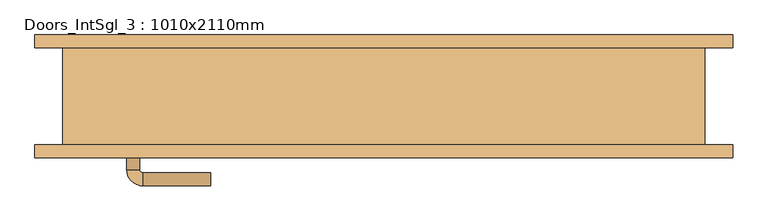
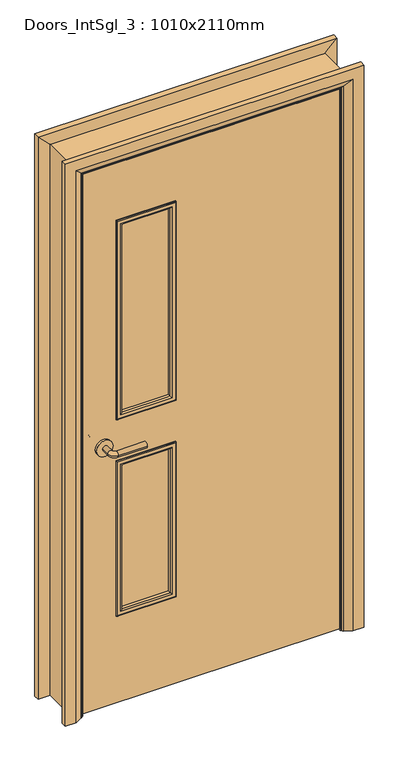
"""IFC4 building model written with IfcOpenShell, lengths in millimetres: door geometry, Doors_IntSgl_3 : 1010x2110mm."""

from ifc_helpers import new_model, si_unit, point, frame, frame_2d, origin, place, context, project, spatial, polyline, circle_curve, ellipse_curve, trimmed, segment, composite_curve, outline, extrude, faceted_brep, source, transform, mapped, element, save
from ifc_brep_helpers import plane_surface, cylinder_surface, revolved_surface, advanced_brep


def doors_intsgl_3_1010x2110mm_0dcaffd3(model_context):
    return source(origin(), model_context, "Body", "SolidModel", [
        advanced_brep(
        [(-398.0, -29.0, 1000.0), (-378.0, -29.0, 1000.0), (-398.0, 1.0, 1000.0), (-378.0, 1.0, 1000.0), (-373.0, 6.0, 1000.0), (-373.0, 26.0, 1000.0), (-268.0, 26.0, 1000.0), (-268.0, 6.0, 1000.0)],
        [
            (0, 1, circle_curve(frame((-388.0, -29.0, 1000.0), z_axis=(0.0, -1.0, 0.0), x_axis=(1.0, 0.0, 0.0)), 10.0)),
            (1, 0, circle_curve(frame((-388.0, -29.0, 1000.0), z_axis=(0.0, -1.0, 0.0), x_axis=(1.0, 0.0, 0.0)), 10.0)),
            (0, 2),
            (2, 3, circle_curve(frame((-388.0, 1.0, 1000.0), z_axis=(0.0, -1.0, 0.0), x_axis=(1.0, 0.0, 0.0)), 10.0)),
            (3, 1),
            (3, 2, circle_curve(frame((-388.0, 1.0, 1000.0), z_axis=(0.0, -1.0, 0.0), x_axis=(1.0, 0.0, 0.0)), 10.0)),
            (4, 3, circle_curve(frame((-373.0, 1.0, 1000.0), z_axis=(0.0, 0.0, 1.0), x_axis=(-1.0, 0.0, 0.0)), 5.0)),
            (2, 5, circle_curve(frame((-373.0, 1.0, 1000.0), z_axis=(0.0, 0.0, -1.0), x_axis=(-1.0, 0.0, 0.0)), 25.0)),
            (5, 4, circle_curve(frame((-373.0, 16.0, 1000.0), z_axis=(-1.0, 0.0, 0.0), x_axis=(0.0, -1.0, 0.0)), 10.0)),
            (4, 5, circle_curve(frame((-373.0, 16.0, 1000.0), z_axis=(-1.0, 0.0, 0.0), x_axis=(0.0, -1.0, 0.0)), 10.0)),
            (6, 7, circle_curve(frame((-268.0, 16.0, 1000.0), z_axis=(1.0, 0.0, 0.0), x_axis=(0.0, -1.0, 0.0)), 10.0)),
            (7, 6, circle_curve(frame((-268.0, 16.0, 1000.0), z_axis=(1.0, 0.0, 0.0), x_axis=(0.0, -1.0, 0.0)), 10.0)),
            (5, 6),
            (7, 4),
        ],
        [
            plane_surface(frame((-388.0, -29.0, 1000.0), z_axis=(0.0, -1.0, 0.0), x_axis=(0.0, 0.0, 1.0))),
            cylinder_surface(frame((-388.0, -29.0, 1000.0), z_axis=(0.0, -1.0, 0.0), x_axis=(1.0, 0.0, 0.0)), 10.0),
            revolved_surface(trimmed(ellipse_curve(frame((-388.0, 1.0, 1000.0), z_axis=(0.0, -1.0, 0.0), x_axis=(1.0, 0.0, 0.0)), 10.0, 10.0), [point((-398.0, 1.0, 1000.0))], [point((-378.0, 1.0, 1000.0))], True, "CARTESIAN"), (-373.0, 1.0, 1000.0), (0.0, 0.0, -1.0)),
            revolved_surface(trimmed(ellipse_curve(frame((-388.0, 1.0, 1000.0), z_axis=(0.0, -1.0, 0.0), x_axis=(1.0, 0.0, 0.0)), 10.0, 10.0), [point((-378.0, 1.0, 1000.0))], [point((-398.0, 1.0, 1000.0))], True, "CARTESIAN"), (-373.0, 1.0, 1000.0), (0.0, 0.0, -1.0)),
            plane_surface(frame((-268.0, 16.0, 1000.0), z_axis=(1.0, 0.0, 0.0), x_axis=(0.0, 0.0, 1.0))),
            cylinder_surface(frame((-373.0, 16.0, 1000.0), z_axis=(-1.0, 0.0, 0.0), x_axis=(0.0, -1.0, 0.0)), 10.0),
        ],
        [
            (0, [[1, 2]]),
            (1, [[-1, 3, 4, 5]]),
            (1, [[-2, -5, 6, -3]]),
            (2, [[7, -4, 8, 9]]),
            (3, [[-8, -6, -7, 10]]),
            (4, [[11, 12]]),
            (5, [[-9, 13, -12, 14]]),
            (5, [[-10, -14, -11, -13]]),
        ],
    ),
        extrude(outline(composite_curve([segment(trimmed(circle_curve(frame_2d((1000.0, -390.5)), 30.0), [point((1000.0, -420.5))], [point((1000.0, -360.5))], False, "CARTESIAN"), True, "CONTINUOUS"), segment(trimmed(circle_curve(frame_2d((1000.0, -390.5)), 30.0), [point((1000.0, -360.5))], [point((1000.0, -420.5))], False, "CARTESIAN"), True, "CONTINUOUS")], self_intersect=False)), frame((0.0, -37.0, 0.0), z_axis=(0.0, 1.0, 0.0), x_axis=(0.0, 0.0, 1.0)), (0.0, 0.0, 1.0), 8.0),
        advanced_brep(
        [(-398.0, -83.0, 1000.0), (-378.0, -83.0, 1000.0), (-378.0, -113.0, 1000.0), (-398.0, -113.0, 1000.0), (-373.0, -118.0, 1000.0), (-373.0, -138.0, 1000.0), (-268.0, -138.0, 1000.0), (-268.0, -118.0, 1000.0)],
        [
            (0, 1, circle_curve(frame((-388.0, -83.0, 1000.0), z_axis=(0.0, 1.0, 0.0), x_axis=(1.0, 0.0, 0.0)), 10.0)),
            (1, 0, circle_curve(frame((-388.0, -83.0, 1000.0), z_axis=(0.0, 1.0, 0.0), x_axis=(1.0, 0.0, 0.0)), 10.0)),
            (1, 2),
            (2, 3, circle_curve(frame((-388.0, -113.0, 1000.0), z_axis=(0.0, 1.0, 0.0), x_axis=(1.0, 0.0, 0.0)), 10.0)),
            (3, 0),
            (3, 2, circle_curve(frame((-388.0, -113.0, 1000.0), z_axis=(0.0, 1.0, 0.0), x_axis=(1.0, 0.0, 0.0)), 10.0)),
            (4, 5, circle_curve(frame((-373.0, -128.0, 1000.0), z_axis=(-1.0, 0.0, 0.0), x_axis=(0.0, 1.0, 0.0)), 10.0)),
            (5, 3, circle_curve(frame((-373.0, -113.0, 1000.0), z_axis=(0.0, 0.0, -1.0), x_axis=(-1.0, 0.0, 0.0)), 25.0)),
            (2, 4, circle_curve(frame((-373.0, -113.0, 1000.0), z_axis=(0.0, 0.0, 1.0), x_axis=(-1.0, 0.0, 0.0)), 5.0)),
            (5, 4, circle_curve(frame((-373.0, -128.0, 1000.0), z_axis=(-1.0, 0.0, 0.0), x_axis=(0.0, 1.0, 0.0)), 10.0)),
            (6, 7, circle_curve(frame((-268.0, -128.0, 1000.0), z_axis=(1.0, 0.0, 0.0), x_axis=(0.0, 1.0, 0.0)), 10.0)),
            (7, 6, circle_curve(frame((-268.0, -128.0, 1000.0), z_axis=(1.0, 0.0, 0.0), x_axis=(0.0, 1.0, 0.0)), 10.0)),
            (4, 7),
            (6, 5),
        ],
        [
            plane_surface(frame((-388.0, -83.0, 1000.0), z_axis=(0.0, 1.0, 0.0), x_axis=(0.0, 0.0, 1.0))),
            cylinder_surface(frame((-388.0, -83.0, 1000.0), z_axis=(0.0, 1.0, 0.0), x_axis=(1.0, 0.0, 0.0)), 10.0),
            revolved_surface(trimmed(ellipse_curve(frame((-388.0, -113.0, 1000.0), z_axis=(0.0, -1.0, 0.0), x_axis=(1.0, 0.0, 0.0)), 10.0, 10.0), [point((-398.0, -113.0, 1000.0))], [point((-378.0, -113.0, 1000.0))], True, "CARTESIAN"), (-373.0, -113.0, 1000.0), (0.0, 0.0, -1.0)),
            revolved_surface(trimmed(ellipse_curve(frame((-388.0, -113.0, 1000.0), z_axis=(0.0, -1.0, 0.0), x_axis=(1.0, 0.0, 0.0)), 10.0, 10.0), [point((-378.0, -113.0, 1000.0))], [point((-398.0, -113.0, 1000.0))], True, "CARTESIAN"), (-373.0, -113.0, 1000.0), (0.0, 0.0, -1.0)),
            plane_surface(frame((-268.0, -128.0, 1000.0), z_axis=(1.0, 0.0, 0.0), x_axis=(0.0, 0.0, 1.0))),
            cylinder_surface(frame((-373.0, -128.0, 1000.0), z_axis=(-1.0, 0.0, 0.0), x_axis=(0.0, 1.0, 0.0)), 10.0),
        ],
        [
            (0, [[1, 2]]),
            (1, [[3, 4, 5, -2]]),
            (1, [[-5, 6, -3, -1]]),
            (2, [[7, 8, -4, 9]]),
            (3, [[10, -9, -6, -8]]),
            (4, [[11, 12]]),
            (5, [[13, -11, 14, -7]]),
            (5, [[-14, -12, -13, -10]]),
        ],
    ),
        extrude(outline(composite_curve([segment(trimmed(circle_curve(frame_2d((1000.0, -390.5)), 30.0), [point((1000.0, -420.5))], [point((1000.0, -360.5))], False, "CARTESIAN"), True, "CONTINUOUS"), segment(trimmed(circle_curve(frame_2d((1000.0, -390.5)), 30.0), [point((1000.0, -360.5))], [point((1000.0, -420.5))], False, "CARTESIAN"), True, "CONTINUOUS")], self_intersect=False)), frame((0.0, -83.0, 0.0), z_axis=(0.0, 1.0, 0.0), x_axis=(0.0, 0.0, 1.0)), (0.0, 0.0, 1.0), 8.0),
        extrude(outline(polyline([(2068.0, -463.0), (8.0, -463.0), (8.0, 463.0), (2068.0, 463.0), (2068.0, -463.0)]), holes=[polyline([(1843.0, -138.0), (1100.0, -138.0), (1100.0, -338.0), (1843.0, -338.0), (1843.0, -138.0)]), polyline([(925.0, -338.0), (925.0, -138.0), (350.0, -138.0), (350.0, -338.0), (925.0, -338.0)])]), frame((0.0, -75.0, 0.0), z_axis=(0.0, 1.0, 0.0), x_axis=(0.0, 0.0, 1.0)), (0.0, 0.0, 1.0), 38.0),
        advanced_brep(
        [(540.0, -95.0, 0.0), (500.0, -95.0, 0.0), (474.0, -81.0, 0.0), (470.0, -75.0, 0.0), (540.0, -75.0, 0.0), (540.0, -75.0, 2145.0), (540.0, -95.0, 2145.0), (470.0, -75.0, 2075.0), (-470.0, -75.0, 2075.0), (-470.0, -75.0, 0.0), (-540.0, -75.0, 0.0), (-540.0, -75.0, 2145.0), (474.0, -81.0, 2079.0), (500.0, -95.0, 2105.0), (-540.0, -95.0, 2145.0), (-540.0, -95.0, 0.0), (-500.0, -95.0, 0.0), (-500.0, -95.0, 2105.0), (-474.0, -81.0, 0.0), (-474.0, -81.0, 2079.0)],
        [
            (0, 1),
            (1, 2),
            (2, 3, circle_curve(frame((478.0, -74.0, 0.0), z_axis=(0.0, 0.0, -1.0), x_axis=(1.0, 0.0, 0.0)), 8.0622577)),
            (3, 4),
            (4, 0),
            (4, 5),
            (5, 6),
            (6, 0),
            (3, 7),
            (7, 8),
            (8, 9),
            (9, 10),
            (10, 11),
            (11, 5),
            (2, 12),
            (12, 7, ellipse_curve(frame((478.0, -74.0, 2083.0), z_axis=(0.7071067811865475, 0.0, -0.7071067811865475), x_axis=(-0.7071067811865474, 0.0, -0.7071067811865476)), 11.4017543, 8.0622577)),
            (1, 13),
            (13, 12),
            (6, 14),
            (14, 15),
            (15, 16),
            (16, 17),
            (17, 13),
            (10, 15),
            (14, 11),
            (9, 18, circle_curve(frame((-478.0, -74.0, 0.0), z_axis=(0.0, 0.0, -1.0), x_axis=(-1.0, 0.0, 0.0)), 8.0622577)),
            (18, 16),
            (19, 18),
            (8, 19, ellipse_curve(frame((-478.0, -74.0, 2083.0), z_axis=(-0.7071067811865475, 0.0, -0.7071067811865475), x_axis=(-0.7071067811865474, 0.0, 0.7071067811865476)), 11.4017543, 8.0622577)),
            (19, 17),
            (12, 19),
        ],
        [
            plane_surface(frame((470.0, -75.0, 0.0), z_axis=(0.0, 0.0, -1.0), x_axis=(0.0, 1.0, 0.0))),
            plane_surface(frame((540.0, -95.0, 0.0), z_axis=(1.0, 0.0, 0.0), x_axis=(0.0, 0.0, 1.0))),
            plane_surface(frame((540.0, -75.0, 0.0), z_axis=(0.0, 1.0, 0.0), x_axis=(0.0, 0.0, 1.0))),
            cylinder_surface(frame((478.0, -74.0, 0.0), z_axis=(0.0, 0.0, -1.0), x_axis=(1.0, 0.0, 0.0)), 8.0622577),
            plane_surface(frame((474.0, -81.0, 0.0), z_axis=(-0.4740998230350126, -0.8804710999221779, 0.0), x_axis=(0.0, 0.0, 1.0))),
            plane_surface(frame((500.0, -95.0, 0.0), z_axis=(0.0, -1.0, 0.0), x_axis=(0.0, 0.0, 1.0))),
            plane_surface(frame((-540.0, -95.0, 2145.0), z_axis=(-1.0, 0.0, 0.0), x_axis=(0.0, 0.0, -1.0))),
            plane_surface(frame((-470.0, -75.0, 0.0), z_axis=(0.0, 0.0, -1.0), x_axis=(0.0, 1.0, 0.0))),
            cylinder_surface(frame((-478.0, -74.0, 2075.0), z_axis=(0.0, 0.0, 1.0), x_axis=(-1.0, 0.0, 0.0)), 8.0622577),
            plane_surface(frame((-474.0, -81.0, 2079.0), z_axis=(0.4740998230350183, -0.8804710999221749, 0.0), x_axis=(0.0, 0.0, -1.0))),
            plane_surface(frame((540.0, -95.0, 2145.0), z_axis=(0.0, 0.0, 1.0), x_axis=(-1.0, 0.0, 0.0))),
            cylinder_surface(frame((470.0, -74.0, 2083.0), z_axis=(1.0, 0.0, 0.0), x_axis=(0.0, 0.0, 1.0)), 8.0622577),
            plane_surface(frame((474.0, -81.0, 2079.0), z_axis=(0.0, -0.8804710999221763, -0.4740998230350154), x_axis=(-1.0, 0.0, 0.0))),
        ],
        [
            (0, [[1, 2, 3, 4, 5]]),
            (1, [[6, 7, 8, -5]]),
            (2, [[9, 10, 11, 12, 13, 14, -6, -4]]),
            (3, [[15, 16, -9, -3]]),
            (4, [[17, 18, -15, -2]]),
            (5, [[-8, 19, 20, 21, 22, 23, -17, -1]]),
            (6, [[-13, 24, -20, 25]]),
            (7, [[-24, -12, 26, 27, -21]]),
            (8, [[28, -26, -11, 29]]),
            (9, [[-22, -27, -28, 30]]),
            (10, [[-14, -25, -19, -7]]),
            (11, [[31, -29, -10, -16]]),
            (12, [[-23, -30, -31, -18]]),
        ],
    ),
        extrude(outline(polyline([(0.0, -446.0), (2051.0, -446.0), (2051.0, 446.0), (0.0, 446.0), (0.0, 465.0), (2070.0, 465.0), (2070.0, -465.0), (0.0, -465.0), (0.0, -446.0)])), frame((0.0, -35.0, 0.0), z_axis=(0.0, 1.0, 0.0), x_axis=(0.0, 0.0, 1.0)), (0.0, 0.0, 1.0), 32.0),
        advanced_brep(
        [(-540.0, 95.0, 0.0), (-500.0, 95.0, 0.0), (-474.0, 81.0, 0.0), (-470.0, 75.0, 0.0), (-540.0, 75.0, 0.0), (-540.0, 75.0, 2145.0), (-540.0, 95.0, 2145.0), (-470.0, 75.0, 2075.0), (-474.0, 81.0, 2079.0), (-500.0, 95.0, 2105.0), (540.0, 95.0, 0.0), (540.0, 75.0, 0.0), (470.0, 75.0, 0.0), (474.0, 81.0, 0.0), (500.0, 95.0, 0.0), (540.0, 95.0, 2145.0), (500.0, 95.0, 2105.0), (474.0, 81.0, 2079.0), (470.0, 75.0, 2075.0), (540.0, 75.0, 2145.0)],
        [
            (0, 1),
            (1, 2),
            (2, 3, circle_curve(frame((-478.0, 74.0, 0.0), z_axis=(0.0, 0.0, -1.0), x_axis=(-1.0, 0.0, 0.0)), 8.0622577)),
            (3, 4),
            (4, 0),
            (4, 5),
            (5, 6),
            (6, 0),
            (3, 7),
            (7, 5),
            (2, 8),
            (8, 7, ellipse_curve(frame((-478.0, 74.0, 2083.0), z_axis=(-0.7071067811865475, 0.0, -0.7071067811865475), x_axis=(0.7071067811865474, 0.0, -0.7071067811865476)), 11.4017543, 8.0622577)),
            (1, 9),
            (9, 8),
            (6, 9),
            (10, 11),
            (11, 12),
            (12, 13, circle_curve(frame((478.0, 74.0, 0.0), z_axis=(0.0, 0.0, -1.0), x_axis=(1.0, 0.0, 0.0)), 8.0622577)),
            (13, 14),
            (14, 10),
            (15, 10),
            (14, 16),
            (16, 15),
            (13, 17),
            (17, 16),
            (12, 18),
            (18, 17, ellipse_curve(frame((478.0, 74.0, 2083.0), z_axis=(0.7071067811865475, 0.0, -0.7071067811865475), x_axis=(0.7071067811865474, 0.0, 0.7071067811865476)), 11.4017543, 8.0622577)),
            (11, 19),
            (19, 18),
            (15, 19),
            (5, 19),
            (15, 6),
            (7, 18),
            (8, 17),
            (9, 16),
        ],
        [
            plane_surface(frame((-470.0, 147.8010989, 0.0), z_axis=(0.0, 0.0, -1.0), x_axis=(1.0, 0.0, 0.0))),
            plane_surface(frame((-540.0, 95.0, 0.0), z_axis=(-1.0, 0.0, 0.0), x_axis=(0.0, 0.0, 1.0))),
            plane_surface(frame((-540.0, 75.0, 0.0), z_axis=(0.0, -1.0, 0.0), x_axis=(0.0, 0.0, 1.0))),
            cylinder_surface(frame((-478.0, 74.0, 0.0), z_axis=(0.0, 0.0, -1.0), x_axis=(-1.0, 0.0, 0.0)), 8.0622577),
            plane_surface(frame((-474.0, 81.0, 0.0), z_axis=(0.4740998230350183, 0.8804710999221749, 0.0), x_axis=(0.0, 0.0, 1.0))),
            plane_surface(frame((-500.0, 95.0, 0.0), z_axis=(0.0, 1.0, 0.0), x_axis=(0.0, 0.0, 1.0))),
            plane_surface(frame((470.0, 147.8010989, 0.0), z_axis=(0.0, 0.0, -1.0), x_axis=(-1.0, 0.0, 0.0))),
            plane_surface(frame((500.0, 95.0, 2105.0), z_axis=(0.0, 1.0, 0.0), x_axis=(0.0, 0.0, -1.0))),
            plane_surface(frame((474.0, 81.0, 2079.0), z_axis=(-0.4740998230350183, 0.8804710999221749, 0.0), x_axis=(0.0, 0.0, -1.0))),
            cylinder_surface(frame((478.0, 74.0, 2075.0), z_axis=(0.0, 0.0, 1.0), x_axis=(1.0, 0.0, 0.0)), 8.0622577),
            plane_surface(frame((540.0, 75.0, 2145.0), z_axis=(0.0, -1.0, 0.0), x_axis=(0.0, 0.0, -1.0))),
            plane_surface(frame((540.0, 95.0, 2145.0), z_axis=(1.0, 0.0, 0.0), x_axis=(0.0, 0.0, -1.0))),
            plane_surface(frame((-540.0, 95.0, 2145.0), z_axis=(0.0, 0.0, 1.0), x_axis=(1.0, 0.0, 0.0))),
            plane_surface(frame((-540.0, 75.0, 2145.0), z_axis=(0.0, -1.0, 0.0), x_axis=(1.0, 0.0, 0.0))),
            cylinder_surface(frame((-470.0, 74.0, 2083.0), z_axis=(-1.0, 0.0, 0.0), x_axis=(0.0, 0.0, 1.0)), 8.0622577),
            plane_surface(frame((-474.0, 81.0, 2079.0), z_axis=(0.0, 0.8804710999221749, -0.4740998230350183), x_axis=(1.0, 0.0, 0.0))),
            plane_surface(frame((-500.0, 95.0, 2105.0), z_axis=(0.0, 1.0, 0.0), x_axis=(1.0, 0.0, 0.0))),
        ],
        [
            (0, [[1, 2, 3, 4, 5]]),
            (1, [[6, 7, 8, -5]]),
            (2, [[9, 10, -6, -4]]),
            (3, [[11, 12, -9, -3]]),
            (4, [[13, 14, -11, -2]]),
            (5, [[-8, 15, -13, -1]]),
            (6, [[16, 17, 18, 19, 20]]),
            (7, [[21, -20, 22, 23]]),
            (8, [[-22, -19, 24, 25]]),
            (9, [[-24, -18, 26, 27]]),
            (10, [[-26, -17, 28, 29]]),
            (11, [[-28, -16, -21, 30]]),
            (12, [[31, -30, 32, -7]]),
            (13, [[33, -29, -31, -10]]),
            (14, [[34, -27, -33, -12]]),
            (15, [[35, -25, -34, -14]]),
            (16, [[-32, -23, -35, -15]]),
        ],
    ),
        faceted_brep([(-465.0, -75.0, 0.0), (-497.0, -75.0, 0.0), (-497.0, 75.0, 0.0), (-465.0, 75.0, 0.0), (-465.0, 75.0, 2070.0), (-465.0, -75.0, 2070.0), (-497.0, 75.0, 2102.0), (-497.0, -75.0, 2102.0), (465.0, -75.0, 0.0), (465.0, 75.0, 0.0), (497.0, 75.0, 0.0), (497.0, -75.0, 0.0), (465.0, -75.0, 2070.0), (497.0, -75.0, 2102.0), (497.0, 75.0, 2102.0), (465.0, 75.0, 2070.0)], [[[0, 1, 2, 3]], [[3, 4, 5, 0]], [[2, 6, 4, 3]], [[1, 7, 6, 2]], [[0, 5, 7, 1]], [[8, 9, 10, 11]], [[12, 8, 11, 13]], [[13, 11, 10, 14]], [[14, 10, 9, 15]], [[15, 9, 8, 12]], [[4, 15, 12, 5]], [[6, 14, 15, 4]], [[7, 13, 14, 6]], [[5, 12, 13, 7]]]),
        advanced_brep(
        [(-138.0, -47.0, 925.0), (-138.0, -47.0, 350.0), (-138.0, -37.0, 350.0), (-138.0, -37.0, 925.0), (-150.0, -36.0, 913.0), (-150.0, -36.0, 362.0), (-150.0, -47.0, 362.0), (-150.0, -47.0, 913.0), (-145.0, -31.0, 918.0), (-145.0, -31.0, 357.0), (-130.0, -33.0, 933.0), (-130.0, -33.0, 342.0), (-132.0, -31.0, 344.0), (-132.0, -31.0, 931.0), (-130.0, -37.0, 933.0), (-130.0, -37.0, 342.0), (-338.0, -47.0, 350.0), (-338.0, -37.0, 350.0), (-326.0, -36.0, 362.0), (-326.0, -47.0, 362.0), (-331.0, -31.0, 357.0), (-346.0, -33.0, 342.0), (-344.0, -31.0, 344.0), (-346.0, -37.0, 342.0), (-338.0, -47.0, 925.0), (-338.0, -37.0, 925.0), (-326.0, -36.0, 913.0), (-326.0, -47.0, 913.0), (-331.0, -31.0, 918.0), (-346.0, -33.0, 933.0), (-344.0, -31.0, 931.0), (-346.0, -37.0, 933.0)],
        [
            (0, 1),
            (1, 2),
            (2, 3),
            (3, 0),
            (4, 5),
            (5, 6),
            (6, 7),
            (7, 4),
            (8, 9),
            (9, 5, ellipse_curve(frame((-145.0, -36.0, 357.0), z_axis=(0.7071067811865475, 0.0, 0.7071067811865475), x_axis=(-0.7071067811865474, 0.0, 0.7071067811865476)), 7.0710678, 5.0)),
            (4, 8, ellipse_curve(frame((-145.0, -36.0, 918.0), z_axis=(0.7071067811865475, 0.0, -0.7071067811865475), x_axis=(0.7071067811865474, 0.0, 0.7071067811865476)), 7.0710678, 5.0)),
            (10, 11),
            (11, 12, ellipse_curve(frame((-132.0, -33.0, 344.0), z_axis=(0.7071067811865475, 0.0, 0.7071067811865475), x_axis=(-0.7071067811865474, 0.0, 0.7071067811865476)), 2.8284271, 2.0)),
            (12, 13),
            (13, 10, ellipse_curve(frame((-132.0, -33.0, 931.0), z_axis=(0.7071067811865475, 0.0, -0.7071067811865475), x_axis=(0.7071067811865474, 0.0, 0.7071067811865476)), 2.8284271, 2.0)),
            (14, 15),
            (15, 11),
            (10, 14),
            (1, 16),
            (16, 17),
            (17, 2),
            (5, 18),
            (18, 19),
            (19, 6),
            (9, 20),
            (20, 18, ellipse_curve(frame((-331.0, -36.0, 357.0), z_axis=(0.7071067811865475, 0.0, -0.7071067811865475), x_axis=(0.7071067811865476, 0.0, 0.7071067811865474)), 7.0710678, 5.0)),
            (11, 21),
            (21, 22, ellipse_curve(frame((-344.0, -33.0, 344.0), z_axis=(0.7071067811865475, 0.0, -0.7071067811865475), x_axis=(0.7071067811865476, 0.0, 0.7071067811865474)), 2.8284271, 2.0)),
            (22, 12),
            (15, 23),
            (23, 21),
            (16, 24),
            (24, 25),
            (25, 17),
            (18, 26),
            (26, 27),
            (27, 19),
            (20, 28),
            (28, 26, ellipse_curve(frame((-331.0, -36.0, 918.0), z_axis=(-0.7071067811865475, 0.0, -0.7071067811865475), x_axis=(0.7071067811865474, 0.0, -0.7071067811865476)), 7.0710678, 5.0)),
            (21, 29),
            (29, 30, ellipse_curve(frame((-344.0, -33.0, 931.0), z_axis=(-0.7071067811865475, 0.0, -0.7071067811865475), x_axis=(0.7071067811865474, 0.0, -0.7071067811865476)), 2.8284271, 2.0)),
            (30, 22),
            (23, 31),
            (31, 29),
            (14, 31),
            (25, 3),
            (24, 0),
            (27, 7),
            (26, 4),
            (28, 8),
            (30, 13),
            (29, 10),
        ],
        [
            plane_surface(frame((-138.0, -37.0, 925.0), z_axis=(1.0, 0.0, 0.0), x_axis=(0.0, 0.0, -1.0))),
            plane_surface(frame((-150.0, -47.0, 913.0), z_axis=(-1.0, 0.0, 0.0), x_axis=(0.0, 0.0, -1.0))),
            cylinder_surface(frame((-145.0, -36.0, 925.0), z_axis=(0.0, 0.0, 1.0), x_axis=(1.0, 0.0, 0.0)), 5.0),
            cylinder_surface(frame((-132.0, -33.0, 925.0), z_axis=(0.0, 0.0, 1.0), x_axis=(1.0, 0.0, 0.0)), 2.0),
            plane_surface(frame((-130.0, -33.0, 933.0), z_axis=(1.0, 0.0, 0.0), x_axis=(0.0, 0.0, -1.0))),
            plane_surface(frame((-138.0, -37.0, 350.0), z_axis=(0.0, 0.0, -1.0), x_axis=(-1.0, 0.0, 0.0))),
            plane_surface(frame((-150.0, -47.0, 362.0), z_axis=(0.0, 0.0, 1.0), x_axis=(-1.0, 0.0, 0.0))),
            cylinder_surface(frame((-138.0, -36.0, 357.0), z_axis=(1.0, 0.0, 0.0), x_axis=(0.0, 0.0, -1.0)), 5.0),
            cylinder_surface(frame((-138.0, -33.0, 344.0), z_axis=(1.0, 0.0, 0.0), x_axis=(0.0, 0.0, -1.0)), 2.0),
            plane_surface(frame((-130.0, -33.0, 342.0), z_axis=(0.0, 0.0, -1.0), x_axis=(-1.0, 0.0, 0.0))),
            plane_surface(frame((-338.0, -37.0, 350.0), z_axis=(-1.0, 0.0, 0.0), x_axis=(0.0, 0.0, 1.0))),
            plane_surface(frame((-326.0, -47.0, 362.0), z_axis=(1.0, 0.0, 0.0), x_axis=(0.0, 0.0, 1.0))),
            cylinder_surface(frame((-331.0, -36.0, 350.0), z_axis=(0.0, 0.0, -1.0), x_axis=(-1.0, 0.0, 0.0)), 5.0),
            cylinder_surface(frame((-344.0, -33.0, 350.0), z_axis=(0.0, 0.0, -1.0), x_axis=(-1.0, 0.0, 0.0)), 2.0),
            plane_surface(frame((-346.0, -33.0, 342.0), z_axis=(-1.0, 0.0, 0.0), x_axis=(0.0, 0.0, 1.0))),
            plane_surface(frame((-346.0, -37.0, 933.0), z_axis=(0.0, -1.0, 0.0), x_axis=(1.0, 0.0, 0.0))),
            plane_surface(frame((-338.0, -37.0, 925.0), z_axis=(0.0, 0.0, 1.0), x_axis=(1.0, 0.0, 0.0))),
            plane_surface(frame((-338.0, -47.0, 925.0), z_axis=(0.0, -1.0, 0.0), x_axis=(1.0, 0.0, 0.0))),
            plane_surface(frame((-326.0, -47.0, 913.0), z_axis=(0.0, 0.0, -1.0), x_axis=(1.0, 0.0, 0.0))),
            cylinder_surface(frame((-338.0, -36.0, 918.0), z_axis=(-1.0, 0.0, 0.0), x_axis=(0.0, 0.0, 1.0)), 5.0),
            plane_surface(frame((-331.0, -31.0, 918.0), z_axis=(0.0, 1.0, 0.0), x_axis=(1.0, 0.0, 0.0))),
            cylinder_surface(frame((-338.0, -33.0, 931.0), z_axis=(-1.0, 0.0, 0.0), x_axis=(0.0, 0.0, 1.0)), 2.0),
            plane_surface(frame((-346.0, -33.0, 933.0), z_axis=(0.0, 0.0, 1.0), x_axis=(1.0, 0.0, 0.0))),
        ],
        [
            (0, [[1, 2, 3, 4]]),
            (1, [[5, 6, 7, 8]]),
            (2, [[9, 10, -5, 11]]),
            (3, [[12, 13, 14, 15]]),
            (4, [[16, 17, -12, 18]]),
            (5, [[19, 20, 21, -2]]),
            (6, [[22, 23, 24, -6]]),
            (7, [[25, 26, -22, -10]]),
            (8, [[27, 28, 29, -13]]),
            (9, [[30, 31, -27, -17]]),
            (10, [[32, 33, 34, -20]]),
            (11, [[35, 36, 37, -23]]),
            (12, [[38, 39, -35, -26]]),
            (13, [[40, 41, 42, -28]]),
            (14, [[43, 44, -40, -31]]),
            (15, [[-16, 45, -43, -30], [-3, -21, -34, 46]]),
            (16, [[47, -4, -46, -33]]),
            (17, [[-1, -47, -32, -19], [-7, -24, -37, 48]]),
            (18, [[49, -8, -48, -36]]),
            (19, [[50, -11, -49, -39]]),
            (20, [[-14, -29, -42, 51], [-9, -50, -38, -25]]),
            (21, [[52, -15, -51, -41]]),
            (22, [[-45, -18, -52, -44]]),
        ],
    ),
        advanced_brep(
        [(-338.0, -65.0, 925.0), (-338.0, -65.0, 350.0), (-338.0, -75.0, 350.0), (-338.0, -75.0, 925.0), (-326.0, -76.0, 913.0), (-326.0, -76.0, 362.0), (-326.0, -65.0, 362.0), (-326.0, -65.0, 913.0), (-331.0, -81.0, 918.0), (-331.0, -81.0, 357.0), (-346.0, -79.0, 933.0), (-346.0, -79.0, 342.0), (-344.0, -81.0, 344.0), (-344.0, -81.0, 931.0), (-346.0, -75.0, 933.0), (-346.0, -75.0, 342.0), (-138.0, -65.0, 350.0), (-138.0, -75.0, 350.0), (-150.0, -76.0, 362.0), (-150.0, -65.0, 362.0), (-145.0, -81.0, 357.0), (-130.0, -79.0, 342.0), (-132.0, -81.0, 344.0), (-130.0, -75.0, 342.0), (-138.0, -65.0, 925.0), (-138.0, -75.0, 925.0), (-150.0, -76.0, 913.0), (-150.0, -65.0, 913.0), (-145.0, -81.0, 918.0), (-130.0, -79.0, 933.0), (-132.0, -81.0, 931.0), (-130.0, -75.0, 933.0)],
        [
            (0, 1),
            (1, 2),
            (2, 3),
            (3, 0),
            (4, 5),
            (5, 6),
            (6, 7),
            (7, 4),
            (8, 9),
            (9, 5, ellipse_curve(frame((-331.0, -76.0, 357.0), z_axis=(-0.7071067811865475, 0.0, 0.7071067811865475), x_axis=(0.7071067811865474, 0.0, 0.7071067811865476)), 7.0710678, 5.0)),
            (4, 8, ellipse_curve(frame((-331.0, -76.0, 918.0), z_axis=(-0.7071067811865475, 0.0, -0.7071067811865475), x_axis=(-0.7071067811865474, 0.0, 0.7071067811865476)), 7.0710678, 5.0)),
            (10, 11),
            (11, 12, ellipse_curve(frame((-344.0, -79.0, 344.0), z_axis=(-0.7071067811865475, 0.0, 0.7071067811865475), x_axis=(0.7071067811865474, 0.0, 0.7071067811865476)), 2.8284271, 2.0)),
            (12, 13),
            (13, 10, ellipse_curve(frame((-344.0, -79.0, 931.0), z_axis=(-0.7071067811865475, 0.0, -0.7071067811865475), x_axis=(-0.7071067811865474, 0.0, 0.7071067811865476)), 2.8284271, 2.0)),
            (14, 15),
            (15, 11),
            (10, 14),
            (1, 16),
            (16, 17),
            (17, 2),
            (5, 18),
            (18, 19),
            (19, 6),
            (9, 20),
            (20, 18, ellipse_curve(frame((-145.0, -76.0, 357.0), z_axis=(-0.7071067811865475, 0.0, -0.7071067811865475), x_axis=(-0.7071067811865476, 0.0, 0.7071067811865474)), 7.0710678, 5.0)),
            (11, 21),
            (21, 22, ellipse_curve(frame((-132.0, -79.0, 344.0), z_axis=(-0.7071067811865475, 0.0, -0.7071067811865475), x_axis=(-0.7071067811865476, 0.0, 0.7071067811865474)), 2.8284271, 2.0)),
            (22, 12),
            (15, 23),
            (23, 21),
            (16, 24),
            (24, 25),
            (25, 17),
            (18, 26),
            (26, 27),
            (27, 19),
            (20, 28),
            (28, 26, ellipse_curve(frame((-145.0, -76.0, 918.0), z_axis=(0.7071067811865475, 0.0, -0.7071067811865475), x_axis=(-0.7071067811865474, 0.0, -0.7071067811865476)), 7.0710678, 5.0)),
            (21, 29),
            (29, 30, ellipse_curve(frame((-132.0, -79.0, 931.0), z_axis=(0.7071067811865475, 0.0, -0.7071067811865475), x_axis=(-0.7071067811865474, 0.0, -0.7071067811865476)), 2.8284271, 2.0)),
            (30, 22),
            (23, 31),
            (31, 29),
            (14, 31),
            (25, 3),
            (24, 0),
            (27, 7),
            (26, 4),
            (28, 8),
            (30, 13),
            (29, 10),
        ],
        [
            plane_surface(frame((-338.0, -75.0, 925.0), z_axis=(-1.0, 0.0, 0.0), x_axis=(0.0, 0.0, -1.0))),
            plane_surface(frame((-326.0, -65.0, 913.0), z_axis=(1.0, 0.0, 0.0), x_axis=(0.0, 0.0, -1.0))),
            cylinder_surface(frame((-331.0, -76.0, 925.0), z_axis=(0.0, 0.0, 1.0), x_axis=(-1.0, 0.0, 0.0)), 5.0),
            cylinder_surface(frame((-344.0, -79.0, 925.0), z_axis=(0.0, 0.0, 1.0), x_axis=(-1.0, 0.0, 0.0)), 2.0),
            plane_surface(frame((-346.0, -79.0, 933.0), z_axis=(-1.0, 0.0, 0.0), x_axis=(0.0, 0.0, -1.0))),
            plane_surface(frame((-338.0, -75.0, 350.0), z_axis=(0.0, 0.0, -1.0), x_axis=(1.0, 0.0, 0.0))),
            plane_surface(frame((-326.0, -65.0, 362.0), z_axis=(0.0, 0.0, 1.0), x_axis=(1.0, 0.0, 0.0))),
            cylinder_surface(frame((-338.0, -76.0, 357.0), z_axis=(-1.0, 0.0, 0.0), x_axis=(0.0, 0.0, -1.0)), 5.0),
            cylinder_surface(frame((-338.0, -79.0, 344.0), z_axis=(-1.0, 0.0, 0.0), x_axis=(0.0, 0.0, -1.0)), 2.0),
            plane_surface(frame((-346.0, -79.0, 342.0), z_axis=(0.0, 0.0, -1.0), x_axis=(1.0, 0.0, 0.0))),
            plane_surface(frame((-138.0, -75.0, 350.0), z_axis=(1.0, 0.0, 0.0), x_axis=(0.0, 0.0, 1.0))),
            plane_surface(frame((-150.0, -65.0, 362.0), z_axis=(-1.0, 0.0, 0.0), x_axis=(0.0, 0.0, 1.0))),
            cylinder_surface(frame((-145.0, -76.0, 350.0), z_axis=(0.0, 0.0, -1.0), x_axis=(1.0, 0.0, 0.0)), 5.0),
            cylinder_surface(frame((-132.0, -79.0, 350.0), z_axis=(0.0, 0.0, -1.0), x_axis=(1.0, 0.0, 0.0)), 2.0),
            plane_surface(frame((-130.0, -79.0, 342.0), z_axis=(1.0, 0.0, 0.0), x_axis=(0.0, 0.0, 1.0))),
            plane_surface(frame((-130.0, -75.0, 933.0), z_axis=(0.0, 1.0, 0.0), x_axis=(-1.0, 0.0, 0.0))),
            plane_surface(frame((-138.0, -75.0, 925.0), z_axis=(0.0, 0.0, 1.0), x_axis=(-1.0, 0.0, 0.0))),
            plane_surface(frame((-138.0, -65.0, 925.0), z_axis=(0.0, 1.0, 0.0), x_axis=(-1.0, 0.0, 0.0))),
            plane_surface(frame((-150.0, -65.0, 913.0), z_axis=(0.0, 0.0, -1.0), x_axis=(-1.0, 0.0, 0.0))),
            cylinder_surface(frame((-138.0, -76.0, 918.0), z_axis=(1.0, 0.0, 0.0), x_axis=(0.0, 0.0, 1.0)), 5.0),
            plane_surface(frame((-145.0, -81.0, 918.0), z_axis=(0.0, -1.0, 0.0), x_axis=(-1.0, 0.0, 0.0))),
            cylinder_surface(frame((-138.0, -79.0, 931.0), z_axis=(1.0, 0.0, 0.0), x_axis=(0.0, 0.0, 1.0)), 2.0),
            plane_surface(frame((-130.0, -79.0, 933.0), z_axis=(0.0, 0.0, 1.0), x_axis=(-1.0, 0.0, 0.0))),
        ],
        [
            (0, [[1, 2, 3, 4]]),
            (1, [[5, 6, 7, 8]]),
            (2, [[9, 10, -5, 11]]),
            (3, [[12, 13, 14, 15]]),
            (4, [[16, 17, -12, 18]]),
            (5, [[19, 20, 21, -2]]),
            (6, [[22, 23, 24, -6]]),
            (7, [[25, 26, -22, -10]]),
            (8, [[27, 28, 29, -13]]),
            (9, [[30, 31, -27, -17]]),
            (10, [[32, 33, 34, -20]]),
            (11, [[35, 36, 37, -23]]),
            (12, [[38, 39, -35, -26]]),
            (13, [[40, 41, 42, -28]]),
            (14, [[43, 44, -40, -31]]),
            (15, [[-16, 45, -43, -30], [-3, -21, -34, 46]]),
            (16, [[47, -4, -46, -33]]),
            (17, [[-1, -47, -32, -19], [-7, -24, -37, 48]]),
            (18, [[49, -8, -48, -36]]),
            (19, [[50, -11, -49, -39]]),
            (20, [[-14, -29, -42, 51], [-9, -50, -38, -25]]),
            (21, [[52, -15, -51, -41]]),
            (22, [[-45, -18, -52, -44]]),
        ],
    ),
        extrude(outline(polyline([(-338.0, -65.0), (-338.0, -47.0), (-138.0, -47.0), (-138.0, -65.0), (-338.0, -65.0)])), frame((0.0, 0.0, 1100.0), z_axis=(0.0, 0.0, 1.0), x_axis=(1.0, 0.0, 0.0)), (0.0, 0.0, 1.0), 743.0),
        extrude(outline(polyline([(-338.0, -65.0), (-338.0, -47.0), (-138.0, -47.0), (-138.0, -65.0), (-338.0, -65.0)])), frame((0.0, 0.0, 350.0), z_axis=(0.0, 0.0, 1.0), x_axis=(1.0, 0.0, 0.0)), (0.0, 0.0, 1.0), 575.0),
        advanced_brep(
        [(-138.0, -47.0, 1843.0), (-138.0, -47.0, 1100.0), (-138.0, -37.0, 1100.0), (-138.0, -37.0, 1843.0), (-150.0, -36.0, 1831.0), (-150.0, -36.0, 1112.0), (-150.0, -47.0, 1112.0), (-150.0, -47.0, 1831.0), (-145.0, -31.0, 1836.0), (-145.0, -31.0, 1107.0), (-130.0, -33.0, 1851.0), (-130.0, -33.0, 1092.0), (-132.0, -31.0, 1094.0), (-132.0, -31.0, 1849.0), (-130.0, -37.0, 1851.0), (-130.0, -37.0, 1092.0), (-338.0, -47.0, 1100.0), (-338.0, -37.0, 1100.0), (-326.0, -36.0, 1112.0), (-326.0, -47.0, 1112.0), (-331.0, -31.0, 1107.0), (-346.0, -33.0, 1092.0), (-344.0, -31.0, 1094.0), (-346.0, -37.0, 1092.0), (-338.0, -47.0, 1843.0), (-338.0, -37.0, 1843.0), (-326.0, -36.0, 1831.0), (-326.0, -47.0, 1831.0), (-331.0, -31.0, 1836.0), (-346.0, -33.0, 1851.0), (-344.0, -31.0, 1849.0), (-346.0, -37.0, 1851.0)],
        [
            (0, 1),
            (1, 2),
            (2, 3),
            (3, 0),
            (4, 5),
            (5, 6),
            (6, 7),
            (7, 4),
            (8, 9),
            (9, 5, ellipse_curve(frame((-145.0, -36.0, 1107.0), z_axis=(0.7071067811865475, 0.0, 0.7071067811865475), x_axis=(-0.7071067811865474, 0.0, 0.7071067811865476)), 7.0710678, 5.0)),
            (4, 8, ellipse_curve(frame((-145.0, -36.0, 1836.0), z_axis=(0.7071067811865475, 0.0, -0.7071067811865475), x_axis=(0.7071067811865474, 0.0, 0.7071067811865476)), 7.0710678, 5.0)),
            (10, 11),
            (11, 12, ellipse_curve(frame((-132.0, -33.0, 1094.0), z_axis=(0.7071067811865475, 0.0, 0.7071067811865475), x_axis=(-0.7071067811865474, 0.0, 0.7071067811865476)), 2.8284271, 2.0)),
            (12, 13),
            (13, 10, ellipse_curve(frame((-132.0, -33.0, 1849.0), z_axis=(0.7071067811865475, 0.0, -0.7071067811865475), x_axis=(0.7071067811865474, 0.0, 0.7071067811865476)), 2.8284271, 2.0)),
            (14, 15),
            (15, 11),
            (10, 14),
            (1, 16),
            (16, 17),
            (17, 2),
            (5, 18),
            (18, 19),
            (19, 6),
            (9, 20),
            (20, 18, ellipse_curve(frame((-331.0, -36.0, 1107.0), z_axis=(0.7071067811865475, 0.0, -0.7071067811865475), x_axis=(0.7071067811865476, 0.0, 0.7071067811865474)), 7.0710678, 5.0)),
            (11, 21),
            (21, 22, ellipse_curve(frame((-344.0, -33.0, 1094.0), z_axis=(0.7071067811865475, 0.0, -0.7071067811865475), x_axis=(0.7071067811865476, 0.0, 0.7071067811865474)), 2.8284271, 2.0)),
            (22, 12),
            (15, 23),
            (23, 21),
            (16, 24),
            (24, 25),
            (25, 17),
            (18, 26),
            (26, 27),
            (27, 19),
            (20, 28),
            (28, 26, ellipse_curve(frame((-331.0, -36.0, 1836.0), z_axis=(-0.7071067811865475, 0.0, -0.7071067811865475), x_axis=(0.7071067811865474, 0.0, -0.7071067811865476)), 7.0710678, 5.0)),
            (21, 29),
            (29, 30, ellipse_curve(frame((-344.0, -33.0, 1849.0), z_axis=(-0.7071067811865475, 0.0, -0.7071067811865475), x_axis=(0.7071067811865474, 0.0, -0.7071067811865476)), 2.8284271, 2.0)),
            (30, 22),
            (23, 31),
            (31, 29),
            (14, 31),
            (25, 3),
            (24, 0),
            (27, 7),
            (26, 4),
            (28, 8),
            (30, 13),
            (29, 10),
        ],
        [
            plane_surface(frame((-138.0, -37.0, 1843.0), z_axis=(1.0, 0.0, 0.0), x_axis=(0.0, 0.0, -1.0))),
            plane_surface(frame((-150.0, -47.0, 1831.0), z_axis=(-1.0, 0.0, 0.0), x_axis=(0.0, 0.0, -1.0))),
            cylinder_surface(frame((-145.0, -36.0, 1843.0), z_axis=(0.0, 0.0, 1.0), x_axis=(1.0, 0.0, 0.0)), 5.0),
            cylinder_surface(frame((-132.0, -33.0, 1843.0), z_axis=(0.0, 0.0, 1.0), x_axis=(1.0, 0.0, 0.0)), 2.0),
            plane_surface(frame((-130.0, -33.0, 1851.0), z_axis=(1.0, 0.0, 0.0), x_axis=(0.0, 0.0, -1.0))),
            plane_surface(frame((-138.0, -37.0, 1100.0), z_axis=(0.0, 0.0, -1.0), x_axis=(-1.0, 0.0, 0.0))),
            plane_surface(frame((-150.0, -47.0, 1112.0), z_axis=(0.0, 0.0, 1.0), x_axis=(-1.0, 0.0, 0.0))),
            cylinder_surface(frame((-138.0, -36.0, 1107.0), z_axis=(1.0, 0.0, 0.0), x_axis=(0.0, 0.0, -1.0)), 5.0),
            cylinder_surface(frame((-138.0, -33.0, 1094.0), z_axis=(1.0, 0.0, 0.0), x_axis=(0.0, 0.0, -1.0)), 2.0),
            plane_surface(frame((-130.0, -33.0, 1092.0), z_axis=(0.0, 0.0, -1.0), x_axis=(-1.0, 0.0, 0.0))),
            plane_surface(frame((-338.0, -37.0, 1100.0), z_axis=(-1.0, 0.0, 0.0), x_axis=(0.0, 0.0, 1.0))),
            plane_surface(frame((-326.0, -47.0, 1112.0), z_axis=(1.0, 0.0, 0.0), x_axis=(0.0, 0.0, 1.0))),
            cylinder_surface(frame((-331.0, -36.0, 1100.0), z_axis=(0.0, 0.0, -1.0), x_axis=(-1.0, 0.0, 0.0)), 5.0),
            cylinder_surface(frame((-344.0, -33.0, 1100.0), z_axis=(0.0, 0.0, -1.0), x_axis=(-1.0, 0.0, 0.0)), 2.0),
            plane_surface(frame((-346.0, -33.0, 1092.0), z_axis=(-1.0, 0.0, 0.0), x_axis=(0.0, 0.0, 1.0))),
            plane_surface(frame((-346.0, -37.0, 1851.0), z_axis=(0.0, -1.0, 0.0), x_axis=(1.0, 0.0, 0.0))),
            plane_surface(frame((-338.0, -37.0, 1843.0), z_axis=(0.0, 0.0, 1.0), x_axis=(1.0, 0.0, 0.0))),
            plane_surface(frame((-338.0, -47.0, 1843.0), z_axis=(0.0, -1.0, 0.0), x_axis=(1.0, 0.0, 0.0))),
            plane_surface(frame((-326.0, -47.0, 1831.0), z_axis=(0.0, 0.0, -1.0), x_axis=(1.0, 0.0, 0.0))),
            cylinder_surface(frame((-338.0, -36.0, 1836.0), z_axis=(-1.0, 0.0, 0.0), x_axis=(0.0, 0.0, 1.0)), 5.0),
            plane_surface(frame((-331.0, -31.0, 1836.0), z_axis=(0.0, 1.0, 0.0), x_axis=(1.0, 0.0, 0.0))),
            cylinder_surface(frame((-338.0, -33.0, 1849.0), z_axis=(-1.0, 0.0, 0.0), x_axis=(0.0, 0.0, 1.0)), 2.0),
            plane_surface(frame((-346.0, -33.0, 1851.0), z_axis=(0.0, 0.0, 1.0), x_axis=(1.0, 0.0, 0.0))),
        ],
        [
            (0, [[1, 2, 3, 4]]),
            (1, [[5, 6, 7, 8]]),
            (2, [[9, 10, -5, 11]]),
            (3, [[12, 13, 14, 15]]),
            (4, [[16, 17, -12, 18]]),
            (5, [[19, 20, 21, -2]]),
            (6, [[22, 23, 24, -6]]),
            (7, [[25, 26, -22, -10]]),
            (8, [[27, 28, 29, -13]]),
            (9, [[30, 31, -27, -17]]),
            (10, [[32, 33, 34, -20]]),
            (11, [[35, 36, 37, -23]]),
            (12, [[38, 39, -35, -26]]),
            (13, [[40, 41, 42, -28]]),
            (14, [[43, 44, -40, -31]]),
            (15, [[-16, 45, -43, -30], [-3, -21, -34, 46]]),
            (16, [[47, -4, -46, -33]]),
            (17, [[-1, -47, -32, -19], [-7, -24, -37, 48]]),
            (18, [[49, -8, -48, -36]]),
            (19, [[50, -11, -49, -39]]),
            (20, [[-14, -29, -42, 51], [-9, -50, -38, -25]]),
            (21, [[52, -15, -51, -41]]),
            (22, [[-45, -18, -52, -44]]),
        ],
    ),
        advanced_brep(
        [(-130.0, -79.0, 1851.0), (-130.0, -79.0, 1092.0), (-130.0, -75.0, 1092.0), (-130.0, -75.0, 1851.0), (-132.0, -81.0, 1849.0), (-132.0, -81.0, 1094.0), (-150.0, -76.0, 1831.0), (-150.0, -76.0, 1112.0), (-145.0, -81.0, 1107.0), (-145.0, -81.0, 1836.0), (-150.0, -65.0, 1831.0), (-150.0, -65.0, 1112.0), (-138.0, -75.0, 1843.0), (-138.0, -75.0, 1100.0), (-138.0, -65.0, 1100.0), (-138.0, -65.0, 1843.0), (-346.0, -79.0, 1092.0), (-346.0, -75.0, 1092.0), (-344.0, -81.0, 1094.0), (-326.0, -76.0, 1112.0), (-331.0, -81.0, 1107.0), (-326.0, -65.0, 1112.0), (-338.0, -75.0, 1100.0), (-338.0, -65.0, 1100.0), (-346.0, -79.0, 1851.0), (-346.0, -75.0, 1851.0), (-344.0, -81.0, 1849.0), (-326.0, -76.0, 1831.0), (-331.0, -81.0, 1836.0), (-326.0, -65.0, 1831.0), (-338.0, -75.0, 1843.0), (-338.0, -65.0, 1843.0)],
        [
            (0, 1),
            (1, 2),
            (2, 3),
            (3, 0),
            (4, 5),
            (5, 1, ellipse_curve(frame((-132.0, -79.0, 1094.0), z_axis=(0.7071067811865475, 0.0, 0.7071067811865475), x_axis=(-0.7071067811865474, 0.0, 0.7071067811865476)), 2.8284271, 2.0)),
            (0, 4, ellipse_curve(frame((-132.0, -79.0, 1849.0), z_axis=(0.7071067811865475, 0.0, -0.7071067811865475), x_axis=(0.7071067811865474, 0.0, 0.7071067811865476)), 2.8284271, 2.0)),
            (6, 7),
            (7, 8, ellipse_curve(frame((-145.0, -76.0, 1107.0), z_axis=(0.7071067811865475, 0.0, 0.7071067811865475), x_axis=(-0.7071067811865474, 0.0, 0.7071067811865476)), 7.0710678, 5.0)),
            (8, 9),
            (9, 6, ellipse_curve(frame((-145.0, -76.0, 1836.0), z_axis=(0.7071067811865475, 0.0, -0.7071067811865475), x_axis=(0.7071067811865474, 0.0, 0.7071067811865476)), 7.0710678, 5.0)),
            (10, 11),
            (11, 7),
            (6, 10),
            (12, 13),
            (13, 14),
            (14, 15),
            (15, 12),
            (1, 16),
            (16, 17),
            (17, 2),
            (5, 18),
            (18, 16, ellipse_curve(frame((-344.0, -79.0, 1094.0), z_axis=(0.7071067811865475, 0.0, -0.7071067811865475), x_axis=(0.7071067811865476, 0.0, 0.7071067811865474)), 2.8284271, 2.0)),
            (7, 19),
            (19, 20, ellipse_curve(frame((-331.0, -76.0, 1107.0), z_axis=(0.7071067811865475, 0.0, -0.7071067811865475), x_axis=(0.7071067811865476, 0.0, 0.7071067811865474)), 7.0710678, 5.0)),
            (20, 8),
            (11, 21),
            (21, 19),
            (13, 22),
            (22, 23),
            (23, 14),
            (16, 24),
            (24, 25),
            (25, 17),
            (18, 26),
            (26, 24, ellipse_curve(frame((-344.0, -79.0, 1849.0), z_axis=(-0.7071067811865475, 0.0, -0.7071067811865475), x_axis=(0.7071067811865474, 0.0, -0.7071067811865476)), 2.8284271, 2.0)),
            (19, 27),
            (27, 28, ellipse_curve(frame((-331.0, -76.0, 1836.0), z_axis=(-0.7071067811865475, 0.0, -0.7071067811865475), x_axis=(0.7071067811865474, 0.0, -0.7071067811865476)), 7.0710678, 5.0)),
            (28, 20),
            (21, 29),
            (29, 27),
            (22, 30),
            (30, 31),
            (31, 23),
            (24, 0),
            (3, 25),
            (26, 4),
            (28, 9),
            (27, 6),
            (29, 10),
            (31, 15),
            (30, 12),
        ],
        [
            plane_surface(frame((-130.0, -75.0, 1851.0), z_axis=(1.0, 0.0, 0.0), x_axis=(0.0, 0.0, -1.0))),
            cylinder_surface(frame((-132.0, -79.0, 1843.0), z_axis=(0.0, 0.0, 1.0), x_axis=(1.0, 0.0, 0.0)), 2.0),
            cylinder_surface(frame((-145.0, -76.0, 1843.0), z_axis=(0.0, 0.0, 1.0), x_axis=(1.0, 0.0, 0.0)), 5.0),
            plane_surface(frame((-150.0, -76.0, 1831.0), z_axis=(-1.0, 0.0, 0.0), x_axis=(0.0, 0.0, -1.0))),
            plane_surface(frame((-138.0, -65.0, 1843.0), z_axis=(1.0, 0.0, 0.0), x_axis=(0.0, 0.0, -1.0))),
            plane_surface(frame((-130.0, -75.0, 1092.0), z_axis=(0.0, 0.0, -1.0), x_axis=(-1.0, 0.0, 0.0))),
            cylinder_surface(frame((-138.0, -79.0, 1094.0), z_axis=(1.0, 0.0, 0.0), x_axis=(0.0, 0.0, -1.0)), 2.0),
            cylinder_surface(frame((-138.0, -76.0, 1107.0), z_axis=(1.0, 0.0, 0.0), x_axis=(0.0, 0.0, -1.0)), 5.0),
            plane_surface(frame((-150.0, -76.0, 1112.0), z_axis=(0.0, 0.0, 1.0), x_axis=(-1.0, 0.0, 0.0))),
            plane_surface(frame((-138.0, -65.0, 1100.0), z_axis=(0.0, 0.0, -1.0), x_axis=(-1.0, 0.0, 0.0))),
            plane_surface(frame((-346.0, -75.0, 1092.0), z_axis=(-1.0, 0.0, 0.0), x_axis=(0.0, 0.0, 1.0))),
            cylinder_surface(frame((-344.0, -79.0, 1100.0), z_axis=(0.0, 0.0, -1.0), x_axis=(-1.0, 0.0, 0.0)), 2.0),
            cylinder_surface(frame((-331.0, -76.0, 1100.0), z_axis=(0.0, 0.0, -1.0), x_axis=(-1.0, 0.0, 0.0)), 5.0),
            plane_surface(frame((-326.0, -76.0, 1112.0), z_axis=(1.0, 0.0, 0.0), x_axis=(0.0, 0.0, 1.0))),
            plane_surface(frame((-338.0, -65.0, 1100.0), z_axis=(-1.0, 0.0, 0.0), x_axis=(0.0, 0.0, 1.0))),
            plane_surface(frame((-346.0, -75.0, 1851.0), z_axis=(0.0, 0.0, 1.0), x_axis=(1.0, 0.0, 0.0))),
            cylinder_surface(frame((-338.0, -79.0, 1849.0), z_axis=(-1.0, 0.0, 0.0), x_axis=(0.0, 0.0, 1.0)), 2.0),
            plane_surface(frame((-344.0, -81.0, 1849.0), z_axis=(0.0, -1.0, 0.0), x_axis=(1.0, 0.0, 0.0))),
            cylinder_surface(frame((-338.0, -76.0, 1836.0), z_axis=(-1.0, 0.0, 0.0), x_axis=(0.0, 0.0, 1.0)), 5.0),
            plane_surface(frame((-326.0, -76.0, 1831.0), z_axis=(0.0, 0.0, -1.0), x_axis=(1.0, 0.0, 0.0))),
            plane_surface(frame((-326.0, -65.0, 1831.0), z_axis=(0.0, 1.0, 0.0), x_axis=(1.0, 0.0, 0.0))),
            plane_surface(frame((-338.0, -65.0, 1843.0), z_axis=(0.0, 0.0, 1.0), x_axis=(1.0, 0.0, 0.0))),
            plane_surface(frame((-338.0, -75.0, 1843.0), z_axis=(0.0, 1.0, 0.0), x_axis=(1.0, 0.0, 0.0))),
        ],
        [
            (0, [[1, 2, 3, 4]]),
            (1, [[5, 6, -1, 7]]),
            (2, [[8, 9, 10, 11]]),
            (3, [[12, 13, -8, 14]]),
            (4, [[15, 16, 17, 18]]),
            (5, [[19, 20, 21, -2]]),
            (6, [[22, 23, -19, -6]]),
            (7, [[24, 25, 26, -9]]),
            (8, [[27, 28, -24, -13]]),
            (9, [[29, 30, 31, -16]]),
            (10, [[32, 33, 34, -20]]),
            (11, [[35, 36, -32, -23]]),
            (12, [[37, 38, 39, -25]]),
            (13, [[40, 41, -37, -28]]),
            (14, [[42, 43, 44, -30]]),
            (15, [[45, -4, 46, -33]]),
            (16, [[47, -7, -45, -36]]),
            (17, [[-5, -47, -35, -22], [-10, -26, -39, 48]]),
            (18, [[49, -11, -48, -38]]),
            (19, [[50, -14, -49, -41]]),
            (20, [[-17, -31, -44, 51], [-12, -50, -40, -27]]),
            (21, [[52, -18, -51, -43]]),
            (22, [[-3, -21, -34, -46], [-15, -52, -42, -29]]),
        ],
    ),
    ])


if __name__ == "__main__":
    model = new_model("IFC4")
    model_context = context("Model", 3, world=origin())
    ifc_project = project(units=[si_unit("LENGTHUNIT", "METRE", prefix="MILLI")], contexts=[model_context])
    site = spatial("IfcSite", under=ifc_project)
    building = spatial("IfcBuilding", under=site)
    placement = place(None, origin())
    doors_intsgl_3_1010x2110mm_shape = doors_intsgl_3_1010x2110mm_0dcaffd3(model_context)
    element("IfcDoor", 1, ObjectType="Doors_IntSgl_3 : 1010x2110mm", at=placement, inside=building, context=model_context, shape_type="MappedRepresentation", body=[
        mapped(doors_intsgl_3_1010x2110mm_shape, transform((0.0, 0.0, 0.0), x_axis=(1.0, 0.0, 0.0), y_axis=(0.0, 1.0, 0.0), z_axis=(0.0, 0.0, 1.0))),
    ])
    save(model, "model.ifc")
